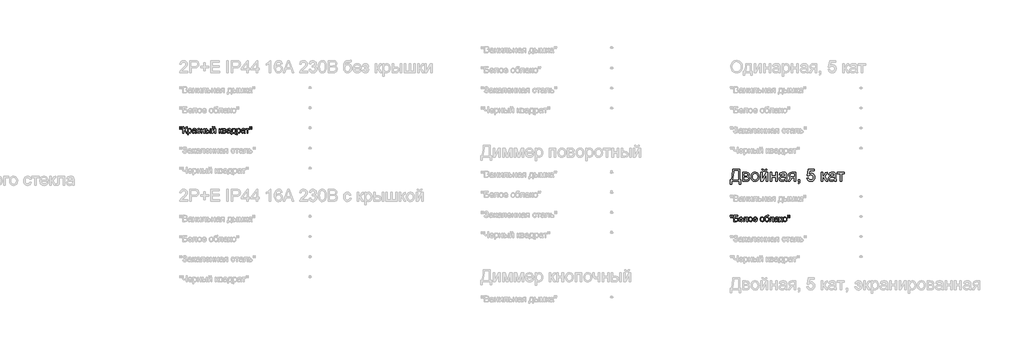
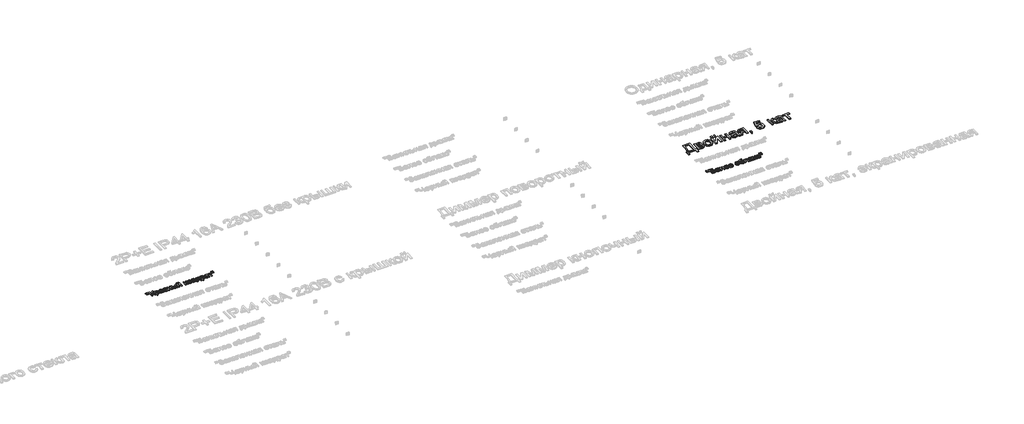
# One storey, part 161 of 168: 3 proxies.
"""IFC4 building model written with IfcOpenShell, lengths in millimetres."""

from ifc_helpers import new_model, si_unit, origin, origin_with_axes, place, context, project, spatial, polyline, outline, extrude, element, save

model = new_model("IFC4")

# Units and contexts
model_context = context("Model", 3, world=origin())
ifc_project = project(units=[si_unit("LENGTHUNIT", "METRE", prefix="MILLI")], contexts=[model_context])

# Site, building, storey
site = spatial("IfcSite", under=ifc_project)
building = spatial("IfcBuilding", under=site)
storey = spatial("IfcBuildingStorey", under=building, Name="Этаж 01", Elevation=0.0)

# Proxies
placement = place(None, origin())
element("IfcBuildingElementProxy", 1, Name="300 мм Arial 2", ObjectType="300 мм Arial 2", at=placement, inside=storey, context=model_context, shape_type="SweptSolid", body=[
    extrude(outline(polyline([(77327.3478389, -8447.0367511), (77506.2856413, -8447.0367511), (77506.2856413, -8710.7345653), (77534.5389786, -8710.7345653), (77534.5389786, -8819.0390246), (77496.8678623, -8819.0390246), (77496.8678623, -8748.4056816), (77303.8033912, -8748.4056816), (77303.8033912, -8819.0390246), (77266.1322749, -8819.0390246), (77266.1322749, -8710.7345653), (77289.6767226, -8710.7345653), (77306.157836, -8676.5629264), (77317.9300598, -8628.4945452), (77324.9933941, -8566.5294217), (77327.3478389, -8490.6675557), (77327.3478389, -8447.0367511)]), holes=[polyline([(77468.614525, -8484.7078674), (77365.0189552, -8484.7078674), (77365.0189552, -8499.8646056), (77357.3670097, -8603.0922935), (77346.0362442, -8662.744359), (77327.3478389, -8710.7345653), (77468.614525, -8710.7345653), (77468.614525, -8484.7078674)])]), origin_with_axes(), (0.0, 0.0, 1.0), 20.0),
    extrude(outline(polyline([(77576.9189844, -8527.0878733), (77659.9131625, -8527.0878733), (77686.5938042, -8528.3478691), (77705.4201653, -8532.1278566), (77719.2709224, -8539.2647673), (77731.0247522, -8550.5955328), (77739.0537767, -8565.3567978), (77741.7301183, -8582.7852073), (77740.1114375, -8596.8291025), (77735.2553951, -8608.9416172), (77727.1435971, -8619.1779337), (77715.7576494, -8627.5932344), (77729.700377, -8635.4199238), (77741.0679307, -8648.0106851), (77748.6279057, -8664.3722368), (77751.1478973, -8683.5112976), (77744.7651447, -8712.2244873), (77729.5900124, -8732.439603), (77705.5673181, -8744.4141619), (77672.6418796, -8748.4056816), (77576.9189844, -8748.4056816), (77576.9189844, -8527.0878733)]), holes=[polyline([(77614.5901007, -8611.847885), (77651.8197586, -8611.847885), (77682.5379052, -8609.9348986), (77697.4739142, -8602.2829531), (77702.41273, -8595.9553828), (77704.0590019, -8588.4505901), (77701.1711283, -8577.2117951), (77692.5075073, -8569.9829139), (77676.8541284, -8566.0649707), (77652.996981, -8564.7589896), (77614.5901007, -8564.7589896), (77614.5901007, -8611.847885)]), polyline([(77614.5901007, -8710.7345653), (77660.7960793, -8710.7345653), (77685.9776019, -8709.033111), (77701.7781336, -8703.9287484), (77710.2578136, -8694.648925), (77713.476781, -8680.4210889), (77711.8672973, -8670.9941127), (77707.0388461, -8662.2845065), (77699.6260239, -8655.4694925), (77690.2634271, -8651.7262932), (77657.1172594, -8649.5190013), (77614.5901007, -8649.5190013), (77614.5901007, -8710.7345653)])]), origin_with_axes(), (0.0, 0.0, 1.0), 20.0),
    extrude(outline(polyline([(77788.8190136, -8637.7467774), (77790.8561602, -8609.0841715), (77796.9675998, -8584.385494), (77807.1533326, -8563.6507451), (77821.4133584, -8546.8799246), (77835.7699533, -8536.160763), (77851.6164702, -8528.504219), (77868.9529092, -8523.9102925), (77887.7792703, -8522.3789837), (77908.5623038, -8524.2436856), (77927.354176, -8529.8377912), (77944.1548868, -8539.1613005), (77958.9644364, -8552.2142135), (77971.0516592, -8568.5550719), (77979.6853898, -8587.7424172), (77984.8656281, -8609.7762495), (77986.5923742, -8634.6565687), (77983.5389537, -8672.7139611), (77974.378692, -8701.6846682), (77959.3783037, -8723.3805088), (77938.8045031, -8739.6133019), (77914.3679415, -8749.7392538), (77887.7792703, -8753.1145711), (77866.6927342, -8751.256767), (77847.7261181, -8745.6833548), (77830.879422, -8736.3943344), (77816.1526459, -8723.3897059), (77804.1941818, -8706.8901984), (77795.6524217, -8687.1165412), (77790.5273657, -8664.0687342), (77788.8190136, -8637.7467774)]), holes=[polyline([(77826.4901299, -8637.673201), (77830.8495316, -8671.7666649), (77843.9277365, -8696.0560737), (77863.6094233, -8710.5966095), (77887.7792703, -8715.4434548), (77911.8387528, -8710.5690184), (77931.4836514, -8695.9457091), (77944.5618563, -8671.3344036), (77948.9212579, -8636.4959786), (77944.5342651, -8603.3957961), (77931.3732868, -8579.4374812), (77911.7007971, -8564.8969453), (77887.7792703, -8560.0501), (77863.6094233, -8564.8785512), (77843.9277365, -8579.3639048), (77830.8495316, -8603.5981312), (77826.4901299, -8637.673201)])]), origin_with_axes(), (0.0, 0.0, 1.0), 20.0),
    extrude(outline(polyline([(78028.9723801, -8527.0878733), (78066.6434964, -8527.0878733), (78066.6434964, -8695.8721327), (78159.2026064, -8527.0878733), (78207.9101825, -8527.0878733), (78207.9101825, -8748.4056816), (78170.2390662, -8748.4056816), (78170.2390662, -8580.6514918), (78078.2685674, -8748.4056816), (78028.9723801, -8748.4056816), (78028.9723801, -8527.0878733)])), origin_with_axes(), (0.0, 0.0, 1.0), 20.0),
    extrude(outline(polyline([(78151.4035081, -8447.0367511), (78179.6568453, -8447.0367511), (78173.5775953, -8471.160613), (78161.3731102, -8488.9385104), (78143.5952127, -8499.8921968), (78120.7957261, -8503.5434256), (78096.0556619, -8499.9197879), (78076.8706159, -8489.048875), (78063.7556227, -8471.2985687), (78057.2257173, -8447.0367511), (78085.4790545, -8447.0367511), (78089.4521801, -8459.4435714), (78096.074056, -8468.2635422), (78105.3814705, -8473.5334518), (78117.4112117, -8475.2900883), (78130.9860574, -8473.5886341), (78140.8085066, -8468.4842714), (78147.4303825, -8459.7194829), (78151.4035081, -8447.0367511)])), origin_with_axes(), (0.0, 0.0, 1.0), 20.0),
    extrude(outline(polyline([(78264.416857, -8527.0878733), (78302.0879733, -8527.0878733), (78302.0879733, -8611.847885), (78400.9746536, -8611.847885), (78400.9746536, -8527.0878733), (78438.6457699, -8527.0878733), (78438.6457699, -8748.4056816), (78400.9746536, -8748.4056816), (78400.9746536, -8649.5190013), (78302.0879733, -8649.5190013), (78302.0879733, -8748.4056816), (78264.416857, -8748.4056816), (78264.416857, -8527.0878733)])), origin_with_axes(), (0.0, 0.0, 1.0), 20.0),
    extrude(outline(polyline([(78636.4191305, -8720.1523443), (78618.4205039, -8735.584994), (78599.8884484, -8745.6833548), (78580.3998997, -8751.256767), (78559.5317935, -8753.1145711), (78528.0502918, -8748.6448049), (78504.8277408, -8735.2355061), (78490.5079342, -8714.8732377), (78485.7346653, -8689.5445623), (78487.5372871, -8673.9279716), (78492.9451524, -8659.7461207), (78501.2868766, -8647.6060149), (78511.8910752, -8638.1146594), (78538.2682142, -8625.7538244), (78570.862559, -8620.0884417), (78609.3798039, -8614.1287533), (78636.1984013, -8607.1389954), (78636.4191305, -8598.7512859), (78633.8255625, -8581.9390788), (78626.0448583, -8570.9394071), (78608.6440399, -8562.7724268), (78584.4006164, -8560.0501), (78561.9598147, -8561.8619189), (78546.2880417, -8567.2973753), (78535.6010697, -8577.3497509), (78528.1146711, -8593.0123268), (78490.4435548, -8588.3034373), (78496.9826573, -8567.7020455), (78506.7407272, -8551.5152378), (78520.6282725, -8539.1360086), (78539.5558012, -8529.9573528), (78562.7047757, -8524.273576), (78589.2566587, -8522.3789837), (78614.7232899, -8524.0528468), (78634.9108143, -8529.074436), (78650.1319319, -8536.625214), (78660.6993422, -8545.8866432), (78667.7074942, -8557.3369703), (78672.2508369, -8571.4544419), (78674.0902468, -8604.4166687), (78674.0902468, -8651.2848348), (78676.0032332, -8716.7310418), (78683.5080259, -8748.4056816), (78645.8369096, -8748.4056816), (78636.4191305, -8720.1523443)]), holes=[polyline([(78636.4191305, -8644.8101117), (78575.6450249, -8656.3616064), (78543.2346211, -8662.4684475), (78528.5561295, -8672.4012614), (78523.4057816, -8686.895812), (78526.2108818, -8698.0978187), (78534.6261825, -8707.2764745), (78548.4677425, -8713.4017097), (78567.551621, -8715.4434548), (78587.7851308, -8713.1901776), (78605.6641957, -8706.4303459), (78620.1587463, -8696.4699409), (78630.238713, -8684.6149436), (78634.7084792, -8672.4012614), (78636.1984013, -8655.4786896), (78636.4191305, -8644.8101117)])]), origin_with_axes(), (0.0, 0.0, 1.0), 20.0),
    extrude(outline(polyline([(78895.4080551, -8527.0878733), (78895.4080551, -8748.4056816), (78857.7369388, -8748.4056816), (78857.7369388, -8663.6456699), (78837.2091235, -8663.6456699), (78809.2500919, -8668.4281358), (78798.0848733, -8678.8575904), (78782.9833174, -8700.5810222), (78752.9641466, -8748.4056816), (78709.4069184, -8748.4056816), (78747.2251875, -8687.9258816), (78763.9270301, -8666.2208438), (78779.3044975, -8656.5823356), (78753.5527578, -8648.6912668), (78735.4529636, -8633.7000755), (78724.7475976, -8613.7608713), (78721.1791422, -8591.025764), (78726.0535786, -8565.2372362), (78740.676888, -8544.8197854), (78764.5340353, -8531.5208513), (78797.109986, -8527.0878733), (78895.4080551, -8527.0878733)]), holes=[polyline([(78857.7369388, -8564.7589896), (78808.0728695, -8564.7589896), (78782.4222974, -8566.9386904), (78767.8633674, -8573.4777929), (78761.1035357, -8582.9415572), (78758.8502585, -8593.8952436), (78762.1703935, -8608.2518385), (78772.1307985, -8618.2122435), (78790.5340954, -8624.033976), (78819.1829057, -8625.9745536), (78857.7369388, -8625.9745536), (78857.7369388, -8564.7589896)])]), origin_with_axes(), (0.0, 0.0, 1.0), 20.0),
    extrude(outline(polyline([(78961.3325087, -8748.4056816), (78961.3325087, -8710.7345653), (78999.003625, -8710.7345653), (78999.003625, -8748.4056816), (78997.3113678, -8769.9543694), (78992.2345963, -8786.9229265), (78983.4790048, -8799.936752), (78970.7502877, -8809.6212456), (78961.3325087, -8795.494577), (78969.499489, -8788.6703659), (78975.1648717, -8779.2341928), (78980.0944904, -8748.4056816), (78961.3325087, -8748.4056816)])), origin_with_axes(), (0.0, 0.0, 1.0), 20.0),
    extrude(outline(polyline([(79177.9414274, -8668.3545594), (79215.6125437, -8663.6456699), (79222.5287252, -8686.2612155), (79234.5952547, -8702.4572204), (79251.7569498, -8712.1968962), (79273.9586282, -8715.4434548), (79300.9611666, -8710.9277033), (79321.1946763, -8697.3804488), (79333.8314229, -8676.3651899), (79338.0436717, -8649.4454249), (79334.0981373, -8624.0983554), (79322.2615341, -8604.7109743), (79302.4418916, -8592.4053215), (79274.5472394, -8588.3034373), (79256.2727012, -8589.9405121), (79241.474648, -8594.8517368), (79220.3214333, -8611.847885), (79182.650317, -8607.1389954), (79215.6125437, -8451.7456407), (79361.5881194, -8451.7456407), (79361.5881194, -8489.416757), (79246.0731729, -8489.416757), (79229.9599415, -8572.4109351), (79256.8705095, -8556.0769745), (79285.0686644, -8550.632321), (79303.4144797, -8552.3199796), (79320.2657743, -8557.3829556), (79335.6225483, -8565.8212488), (79349.4848018, -8577.6348594), (79360.9604208, -8592.1018189), (79369.1572915, -8608.5001588), (79374.0754139, -8626.8298792), (79375.714788, -8647.0909801), (79369.810282, -8684.7620964), (79362.4296495, -8701.5559095), (79352.0967639, -8716.9885592), (79336.443385, -8732.7936894), (79318.178044, -8744.0830681), (79297.3007408, -8750.8566954), (79273.8114754, -8753.1145711), (79236.8117437, -8747.3112326), (79221.1330729, -8740.0570595), (79207.3351988, -8729.9012172), (79195.8549813, -8717.3495434), (79187.1292803, -8702.9078758), (79177.9414274, -8668.3545594)])), origin_with_axes(), (0.0, 0.0, 1.0), 20.0),
    extrude(outline(polyline([(79535.8170323, -8527.0878733), (79573.4881486, -8527.0878733), (79573.4881486, -8621.265664), (79588.8104337, -8619.5734069), (79598.7248535, -8614.4966353), (79607.4988391, -8601.2528835), (79619.3998216, -8575.0596854), (79636.5799108, -8541.0306009), (79651.736649, -8529.9573528), (79679.2910105, -8527.0878733), (79686.5014976, -8527.0878733), (79686.5014976, -8564.9797188), (79676.3479545, -8564.7589896), (79657.9538547, -8568.7321151), (79645.0044085, -8593.5273616), (79629.8108821, -8620.345959), (79608.5105146, -8633.4793463), (79620.4482853, -8638.7814455), (79632.2756915, -8648.1394438), (79655.59941, -8679.0231373), (79695.9192766, -8748.4056816), (79653.0978124, -8748.4056816), (79613.5872861, -8680.4946653), (79593.7216584, -8651.7630814), (79584.432638, -8646.5483542), (79573.4881486, -8644.8101117), (79573.4881486, -8748.4056816), (79535.8170323, -8748.4056816), (79535.8170323, -8527.0878733)])), origin_with_axes(), (0.0, 0.0, 1.0), 20.0),
    extrude(outline(polyline([(79860.7304105, -8720.1523443), (79842.7317839, -8735.584994), (79824.1997284, -8745.6833548), (79804.7111797, -8751.256767), (79783.8430735, -8753.1145711), (79752.3615717, -8748.6448049), (79729.1390208, -8735.2355061), (79714.8192141, -8714.8732377), (79710.0459452, -8689.5445623), (79711.848567, -8673.9279716), (79717.2564324, -8659.7461207), (79725.5981566, -8647.6060149), (79736.2023551, -8638.1146594), (79762.5794942, -8625.7538244), (79795.1738389, -8620.0884417), (79833.6910838, -8614.1287533), (79860.5096813, -8607.1389954), (79860.7304105, -8598.7512859), (79858.1368424, -8581.9390788), (79850.3561382, -8570.9394071), (79832.9553198, -8562.7724268), (79808.7118964, -8560.0501), (79786.2710946, -8561.8619189), (79770.5993217, -8567.2973753), (79759.9123497, -8577.3497509), (79752.4259511, -8593.0123268), (79714.7548348, -8588.3034373), (79721.2939373, -8567.7020455), (79731.0520072, -8551.5152378), (79744.9395525, -8539.1360086), (79763.8670811, -8529.9573528), (79787.0160557, -8524.273576), (79813.5679387, -8522.3789837), (79839.0345698, -8524.0528468), (79859.2220943, -8529.074436), (79874.4432118, -8536.625214), (79885.0106222, -8545.8866432), (79892.0187742, -8557.3369703), (79896.5621168, -8571.4544419), (79898.4015268, -8604.4166687), (79898.4015268, -8651.2848348), (79900.3145132, -8716.7310418), (79907.8193059, -8748.4056816), (79870.1481895, -8748.4056816), (79860.7304105, -8720.1523443)]), holes=[polyline([(79860.7304105, -8644.8101117), (79799.9563049, -8656.3616064), (79767.5459011, -8662.4684475), (79752.8674095, -8672.4012614), (79747.7170616, -8686.895812), (79750.5221618, -8698.0978187), (79758.9374624, -8707.2764745), (79772.7790225, -8713.4017097), (79791.862901, -8715.4434548), (79812.0964107, -8713.1901776), (79829.9754757, -8706.4303459), (79844.4700263, -8696.4699409), (79854.549993, -8684.6149436), (79859.0197592, -8672.4012614), (79860.5096813, -8655.4786896), (79860.7304105, -8644.8101117)])]), origin_with_axes(), (0.0, 0.0, 1.0), 20.0),
    extrude(outline(polyline([(79931.3637535, -8527.0878733), (80110.301556, -8527.0878733), (80110.301556, -8564.7589896), (80039.6682129, -8564.7589896), (80039.6682129, -8748.4056816), (80001.9970966, -8748.4056816), (80001.9970966, -8564.7589896), (79931.3637535, -8564.7589896), (79931.3637535, -8527.0878733)])), origin_with_axes(), (0.0, 0.0, 1.0), 20.0),
])
element("IfcBuildingElementProxy", 2, Name="150", ObjectType="150", at=placement, inside=storey, context=model_context, shape_type="SweptSolid", body=[
    extrude(outline(polyline([(63580.1485789, -7451.873446), (63575.550054, -7422.7739802), (63575.550054, -7397.7212163), (63594.3856121, -7397.7212163), (63594.3856121, -7422.7739802), (63590.2653338, -7451.873446), (63580.1485789, -7451.873446)])), origin_with_axes(), (0.0, 0.0, 1.0), 20.0),
    extrude(outline(polyline([(63617.7093306, -7451.873446), (63613.2211703, -7422.7739802), (63613.2211703, -7397.7212163), (63632.0567284, -7397.7212163), (63632.0567284, -7422.7739802), (63627.6421445, -7451.873446), (63617.7093306, -7451.873446)])), origin_with_axes(), (0.0, 0.0, 1.0), 20.0),
    extrude(outline(polyline([(63657.9556209, -7397.7212163), (63676.791179, -7397.7212163), (63676.791179, -7463.6456699), (63689.5428887, -7462.3994696), (63697.8524233, -7458.6608688), (63712.549309, -7433.4425581), (63722.9419753, -7412.3813139), (63734.7141992, -7401.9518593), (63751.5448005, -7397.7212163), (63763.9056355, -7397.9419455), (63763.9056355, -7416.7775037), (63759.748569, -7416.6671391), (63755.5915024, -7416.5567745), (63740.8762226, -7421.081723), (63729.6926099, -7440.4691042), (63716.3568876, -7464.0871283), (63703.3522591, -7471.8862266), (63717.892795, -7480.4026948), (63732.2309957, -7498.153001), (63763.9056355, -7548.4056816), (63742.053445, -7548.4056816), (63715.2716357, -7505.9520993), (63696.4176835, -7483.7872091), (63687.7126758, -7479.2760562), (63676.791179, -7477.7723385), (63676.791179, -7548.4056816), (63657.9556209, -7548.4056816), (63657.9556209, -7397.7212163)])), origin_with_axes(), (0.0, 0.0, 1.0), 20.0),
    extrude(outline(polyline([(63778.0323041, -7590.7856874), (63778.0323041, -7437.7467774), (63796.8678623, -7437.7467774), (63796.8678623, -7456.2144536), (63809.8908849, -7440.5978629), (63827.4756443, -7435.3923327), (63840.2135583, -7437.2133485), (63851.3511858, -7442.6763962), (63860.4194769, -7451.4503817), (63866.9493823, -7463.2042115), (63872.2100949, -7492.2301009), (63870.7247713, -7508.3387338), (63866.2688007, -7522.7459124), (63858.9847372, -7534.7204713), (63849.0151351, -7543.5312451), (63837.4038596, -7548.952906), (63825.1947759, -7550.7601263), (63808.805633, -7545.9224781), (63796.8678623, -7533.6904018), (63796.8678623, -7590.7856874), (63778.0323041, -7590.7856874)]), holes=[polyline([(63796.8678623, -7493.9591463), (63798.9050088, -7510.8449299), (63805.0164485, -7522.6539419), (63814.0341559, -7529.6069116), (63824.7901057, -7531.9245682), (63835.7207995, -7529.5241382), (63844.9684331, -7522.3228481), (63851.2730108, -7510.0815747), (63853.3745367, -7492.5611947), (63851.3235946, -7475.7673816), (63845.1707682, -7463.7928227), (63836.1668564, -7456.6191238), (63825.5626579, -7454.2278908), (63814.9170727, -7456.7708751), (63805.5682715, -7464.399828), (63799.0429646, -7476.8756261), (63796.8678623, -7493.9591463)])]), origin_with_axes(), (0.0, 0.0, 1.0), 20.0),
    extrude(outline(polyline([(63964.0334409, -7534.279013), (63945.7680998, -7547.0445182), (63925.5897724, -7550.7601263), (63909.8490215, -7548.5252432), (63898.237746, -7541.8205939), (63891.0778427, -7531.6394596), (63888.6912083, -7518.975122), (63892.2964518, -7504.0759012), (63901.7694132, -7493.2601705), (63914.9579827, -7487.079753), (63931.2551551, -7484.2470616), (63963.9230763, -7477.7723385), (63964.0334409, -7473.5784838), (63962.7366568, -7465.1723802), (63958.8463047, -7459.6725443), (63950.1458956, -7455.5890542), (63938.0241838, -7454.2278908), (63918.9678965, -7457.8515285), (63909.8812112, -7470.7090042), (63891.045653, -7468.3545594), (63899.1942392, -7449.9604597), (63915.6017762, -7439.1815172), (63940.452205, -7435.3923327), (63963.2792828, -7438.7400588), (63976.1735467, -7447.1461624), (63981.949294, -7459.9300617), (63982.868999, -7476.4111751), (63982.868999, -7499.8452582), (63983.8254922, -7532.5683617), (63987.5778886, -7548.4056816), (63968.7423304, -7548.4056816), (63964.0334409, -7534.279013)]), holes=[polyline([(63964.0334409, -7496.6078966), (63933.6463881, -7502.383644), (63917.4411862, -7505.4370645), (63910.1019404, -7510.4034715), (63907.5267664, -7517.6507468), (63913.1369668, -7527.841078), (63929.5996861, -7531.9245682), (63948.6559735, -7527.4180137), (63960.9432321, -7516.5103126), (63963.9230763, -7501.9421856), (63964.0334409, -7496.6078966)])]), origin_with_axes(), (0.0, 0.0, 1.0), 20.0),
    extrude(outline(polyline([(64079.4012346, -7508.3801205), (64098.2367927, -7510.7345653), (64092.9852772, -7527.4869916), (64083.1168427, -7540.1467308), (64069.5603912, -7548.1067774), (64053.2448247, -7550.7601263), (64033.2090515, -7547.0583138), (64017.5418771, -7535.952876), (64007.4297207, -7517.9312568), (64004.0590019, -7493.4808997), (64005.4983403, -7476.7192763), (64009.8163552, -7462.192536), (64017.0820246, -7450.4616989), (64027.3643263, -7442.087785), (64039.6653806, -7437.0661957), (64052.9873073, -7435.3923327), (64068.9028021, -7437.6915951), (64081.6269206, -7444.5893825), (64090.7549926, -7455.7178129), (64095.8823479, -7470.7090042), (64077.0467898, -7473.063449), (64068.3095924, -7458.9551744), (64053.1344601, -7454.2278908), (64040.9621646, -7456.5547444), (64031.3006637, -7463.5353053), (64024.996086, -7475.5466524), (64022.8945601, -7492.9658649), (64024.9501007, -7510.6196021), (64031.1167227, -7522.672336), (64040.6034796, -7529.6115101), (64052.6194253, -7531.9245682), (64062.3728967, -7530.4806314), (64070.3697316, -7526.1488209), (64076.1868656, -7518.8187721), (64079.4012346, -7508.3801205)])), origin_with_axes(), (0.0, 0.0, 1.0), 20.0),
    extrude(outline(polyline([(64114.7179061, -7437.7467774), (64133.5534643, -7437.7467774), (64133.5534643, -7480.1267833), (64182.9968044, -7480.1267833), (64182.9968044, -7437.7467774), (64201.8323626, -7437.7467774), (64201.8323626, -7548.4056816), (64182.9968044, -7548.4056816), (64182.9968044, -7498.9623414), (64133.5534643, -7498.9623414), (64133.5534643, -7548.4056816), (64114.7179061, -7548.4056816), (64114.7179061, -7437.7467774)])), origin_with_axes(), (0.0, 0.0, 1.0), 20.0),
    extrude(outline(polyline([(64333.6812696, -7437.7467774), (64352.5168278, -7437.7467774), (64352.5168278, -7548.4056816), (64333.6812696, -7548.4056816), (64333.6812696, -7437.7467774)])), origin_with_axes(), (0.0, 0.0, 1.0), 20.0),
    extrude(outline(polyline([(64230.0856998, -7437.7467774), (64248.9212579, -7437.7467774), (64248.9212579, -7477.7723385), (64272.2081882, -7477.7723385), (64292.3359319, -7480.1313818), (64307.2489483, -7487.2085117), (64316.4781878, -7498.433511), (64319.554601, -7513.2361628), (64316.9748285, -7526.7144394), (64309.235511, -7538.0865916), (64295.8308108, -7545.8259091), (64276.2548902, -7548.4056816), (64230.0856998, -7548.4056816), (64230.0856998, -7437.7467774)]), holes=[polyline([(64248.9212579, -7529.5701234), (64268.2718509, -7529.5701234), (64293.2510384, -7525.615392), (64298.8520417, -7520.552416), (64300.7190429, -7513.272951), (64295.1824188, -7501.6846682), (64286.3026672, -7497.8770895), (64270.7366603, -7496.6078966), (64248.9212579, -7496.6078966), (64248.9212579, -7529.5701234)])]), origin_with_axes(), (0.0, 0.0, 1.0), 20.0),
    extrude(outline(polyline([(64441.985729, -7397.7212163), (64456.1123976, -7397.7212163), (64453.0727726, -7409.7831473), (64446.97053, -7418.672096), (64438.0815813, -7424.1489392), (64426.681838, -7425.9745536), (64414.3118059, -7424.1627347), (64404.7192829, -7418.7272783), (64398.1617863, -7409.8521251), (64394.8968336, -7397.7212163), (64409.0235022, -7397.7212163), (64414.321003, -7408.3346119), (64424.9895808, -7411.847885), (64436.6882283, -7408.4449765), (64441.985729, -7397.7212163)])), origin_with_axes(), (0.0, 0.0, 1.0), 20.0),
    extrude(outline(polyline([(64380.770165, -7437.7467774), (64399.6057232, -7437.7467774), (64399.6057232, -7522.1389071), (64445.8852782, -7437.7467774), (64470.2390662, -7437.7467774), (64470.2390662, -7548.4056816), (64451.4035081, -7548.4056816), (64451.4035081, -7464.5285867), (64405.4182587, -7548.4056816), (64380.770165, -7548.4056816), (64380.770165, -7437.7467774)])), origin_with_axes(), (0.0, 0.0, 1.0), 20.0),
    extrude(outline(polyline([(64557.3535227, -7437.7467774), (64576.1890808, -7437.7467774), (64576.1890808, -7484.8356728), (64588.8074333, -7481.4511584), (64599.1449173, -7461.7326835), (64607.7349619, -7444.7181412), (64615.313331, -7439.1815172), (64629.0905118, -7437.7467774), (64632.6957553, -7437.7467774), (64632.6957553, -7456.6927002), (64627.6189838, -7456.5823356), (64618.4219339, -7458.5688983), (64611.9472108, -7470.9665216), (64604.3504476, -7484.3758203), (64593.7002638, -7490.9425139), (64605.5828523, -7498.2725627), (64617.2447115, -7513.7144094), (64637.4046448, -7548.4056816), (64615.9939127, -7548.4056816), (64596.2386496, -7514.4501734), (64586.3058357, -7500.0843815), (64576.1890808, -7496.6078966), (64576.1890808, -7548.4056816), (64557.3535227, -7548.4056816), (64557.3535227, -7437.7467774)])), origin_with_axes(), (0.0, 0.0, 1.0), 20.0),
    extrude(outline(polyline([(64649.1768687, -7437.7467774), (64690.6739577, -7437.7467774), (64713.4274591, -7440.2667691), (64726.2297526, -7449.5006072), (64731.5824356, -7465.5954445), (64728.3450741, -7478.6736494), (64718.5962012, -7487.999458), (64731.2513418, -7498.2081833), (64736.2913251, -7515.9584896), (64733.0999488, -7530.3150845), (64725.5123827, -7540.4226423), (64713.5010355, -7546.4099217), (64697.0383163, -7548.4056816), (64649.1768687, -7548.4056816), (64649.1768687, -7437.7467774)]), holes=[polyline([(64668.0124268, -7480.1267833), (64686.6272558, -7480.1267833), (64701.9863291, -7479.1702901), (64709.4543336, -7475.3443173), (64712.7468775, -7468.4281358), (64711.3029406, -7462.8087383), (64706.9711301, -7459.1942977), (64687.215867, -7456.5823356), (64668.0124268, -7456.5823356), (64668.0124268, -7480.1267833)]), polyline([(64668.0124268, -7529.5701234), (64691.1154161, -7529.5701234), (64711.6064433, -7526.167215), (64715.8462833, -7521.5273033), (64717.455767, -7514.4133852), (64714.2367995, -7505.345094), (64705.84909, -7500.0659874), (64689.2760062, -7498.9623414), (64668.0124268, -7498.9623414), (64668.0124268, -7529.5701234)])]), origin_with_axes(), (0.0, 0.0, 1.0), 20.0),
    extrude(outline(polyline([(64830.4691159, -7534.279013), (64812.2037749, -7547.0445182), (64792.0254474, -7550.7601263), (64776.2846965, -7548.5252432), (64764.6734211, -7541.8205939), (64757.5135177, -7531.6394596), (64755.1268833, -7518.975122), (64758.7321269, -7504.0759012), (64768.2050882, -7493.2601705), (64781.3936578, -7487.079753), (64797.6908301, -7484.2470616), (64830.3587513, -7477.7723385), (64830.4691159, -7473.5784838), (64829.1723319, -7465.1723802), (64825.2819798, -7459.6725443), (64816.5815706, -7455.5890542), (64804.4598589, -7454.2278908), (64785.4035715, -7457.8515285), (64776.3168862, -7470.7090042), (64757.4813281, -7468.3545594), (64765.6299143, -7449.9604597), (64782.0374512, -7439.1815172), (64806.88788, -7435.3923327), (64829.7149578, -7438.7400588), (64842.6092218, -7447.1461624), (64848.3849691, -7459.9300617), (64849.3046741, -7476.4111751), (64849.3046741, -7499.8452582), (64850.2611673, -7532.5683617), (64854.0135636, -7548.4056816), (64835.1780055, -7548.4056816), (64830.4691159, -7534.279013)]), holes=[polyline([(64830.4691159, -7496.6078966), (64800.0820631, -7502.383644), (64783.8768612, -7505.4370645), (64776.5376154, -7510.4034715), (64773.9624415, -7517.6507468), (64779.5726419, -7527.841078), (64796.0353612, -7531.9245682), (64815.0916485, -7527.4180137), (64827.3789072, -7516.5103126), (64830.3587513, -7501.9421856), (64830.4691159, -7496.6078966)])]), origin_with_axes(), (0.0, 0.0, 1.0), 20.0),
    extrude(outline(polyline([(64891.6846799, -7437.7467774), (64962.318023, -7437.7467774), (64962.318023, -7529.5701234), (64976.4446916, -7529.5701234), (64976.4446916, -7579.0134636), (64957.6091334, -7579.0134636), (64957.6091334, -7548.4056816), (64879.9124561, -7548.4056816), (64879.9124561, -7579.0134636), (64861.0768979, -7579.0134636), (64861.0768979, -7529.5701234), (64872.8491218, -7529.5701234), (64881.4069767, -7514.105284), (64887.3988547, -7493.6464466), (64891.6846799, -7437.7467774)]), holes=[polyline([(64908.1657933, -7456.5823356), (64903.7512094, -7499.4957703), (64894.0391247, -7529.5701234), (64943.4824648, -7529.5701234), (64943.4824648, -7456.5823356), (64908.1657933, -7456.5823356)])]), origin_with_axes(), (0.0, 0.0, 1.0), 20.0),
    extrude(outline(polyline([(64997.6346945, -7590.7856874), (64997.6346945, -7437.7467774), (65016.4702527, -7437.7467774), (65016.4702527, -7456.2144536), (65029.4932753, -7440.5978629), (65047.0780347, -7435.3923327), (65059.8159488, -7437.2133485), (65070.9535762, -7442.6763962), (65080.0218673, -7451.4503817), (65086.5517728, -7463.2042115), (65091.8124853, -7492.2301009), (65090.3271617, -7508.3387338), (65085.8711911, -7522.7459124), (65078.5871276, -7534.7204713), (65068.6175255, -7543.5312451), (65057.00625, -7548.952906), (65044.7971663, -7550.7601263), (65028.4080234, -7545.9224781), (65016.4702527, -7533.6904018), (65016.4702527, -7590.7856874), (64997.6346945, -7590.7856874)]), holes=[polyline([(65016.4702527, -7493.9591463), (65018.5073992, -7510.8449299), (65024.6188389, -7522.6539419), (65033.6365463, -7529.6069116), (65044.3924961, -7531.9245682), (65055.3231899, -7529.5241382), (65064.5708235, -7522.3228481), (65070.8754012, -7510.0815747), (65072.9769271, -7492.5611947), (65070.925985, -7475.7673816), (65064.7731586, -7463.7928227), (65055.7692468, -7456.6191238), (65045.1650483, -7454.2278908), (65034.5194631, -7456.7708751), (65025.1706619, -7464.399828), (65018.645355, -7476.8756261), (65016.4702527, -7493.9591463)])]), origin_with_axes(), (0.0, 0.0, 1.0), 20.0),
    extrude(outline(polyline([(65183.6358313, -7534.279013), (65165.3704902, -7547.0445182), (65145.1921628, -7550.7601263), (65129.4514119, -7548.5252432), (65117.8401364, -7541.8205939), (65110.6802331, -7531.6394596), (65108.2935987, -7518.975122), (65111.8988422, -7504.0759012), (65121.3718036, -7493.2601705), (65134.5603731, -7487.079753), (65150.8575455, -7484.2470616), (65183.5254667, -7477.7723385), (65183.6358313, -7473.5784838), (65182.3390473, -7465.1723802), (65178.4486952, -7459.6725443), (65169.748286, -7455.5890542), (65157.6265742, -7454.2278908), (65138.5702869, -7457.8515285), (65129.4836016, -7470.7090042), (65110.6480434, -7468.3545594), (65118.7966296, -7449.9604597), (65135.2041666, -7439.1815172), (65160.0545954, -7435.3923327), (65182.8816732, -7438.7400588), (65195.7759371, -7447.1461624), (65201.5516844, -7459.9300617), (65202.4713894, -7476.4111751), (65202.4713894, -7499.8452582), (65203.4278826, -7532.5683617), (65207.180279, -7548.4056816), (65188.3447208, -7548.4056816), (65183.6358313, -7534.279013)]), holes=[polyline([(65183.6358313, -7496.6078966), (65153.2487785, -7502.383644), (65137.0435766, -7505.4370645), (65129.7043308, -7510.4034715), (65127.1291568, -7517.6507468), (65132.7393573, -7527.841078), (65149.2020765, -7531.9245682), (65168.2583639, -7527.4180137), (65180.5456225, -7516.5103126), (65183.5254667, -7501.9421856), (65183.6358313, -7496.6078966)])]), origin_with_axes(), (0.0, 0.0, 1.0), 20.0),
    extrude(outline(polyline([(65218.9525028, -7437.7467774), (65308.421404, -7437.7467774), (65308.421404, -7456.5823356), (65273.1047325, -7456.5823356), (65273.1047325, -7548.4056816), (65254.2691744, -7548.4056816), (65254.2691744, -7456.5823356), (65218.9525028, -7456.5823356), (65218.9525028, -7437.7467774)])), origin_with_axes(), (0.0, 0.0, 1.0), 20.0),
    extrude(outline(polyline([(65324.7921528, -7451.873446), (65320.1936279, -7422.7739802), (65320.1936279, -7397.7212163), (65339.029186, -7397.7212163), (65339.029186, -7422.7739802), (65334.9089077, -7451.873446), (65324.7921528, -7451.873446)])), origin_with_axes(), (0.0, 0.0, 1.0), 20.0),
    extrude(outline(polyline([(65362.3529045, -7451.873446), (65357.8647442, -7422.7739802), (65357.8647442, -7397.7212163), (65376.7003024, -7397.7212163), (65376.7003024, -7422.7739802), (65372.2857184, -7451.873446), (65362.3529045, -7451.873446)])), origin_with_axes(), (0.0, 0.0, 1.0), 20.0),
])
element("IfcBuildingElementProxy", 3, Name="150", ObjectType="150", at=placement, inside=storey, context=model_context, shape_type="SweptSolid", body=[
    extrude(outline(polyline([(77280.1485789, -9651.873446), (77275.550054, -9622.7739802), (77275.550054, -9597.7212163), (77294.3856121, -9597.7212163), (77294.3856121, -9622.7739802), (77290.2653338, -9651.873446), (77280.1485789, -9651.873446)])), origin_with_axes(), (0.0, 0.0, 1.0), 20.0),
    extrude(outline(polyline([(77317.7093306, -9651.873446), (77313.2211703, -9622.7739802), (77313.2211703, -9597.7212163), (77332.0567284, -9597.7212163), (77332.0567284, -9622.7739802), (77327.6421445, -9651.873446), (77317.7093306, -9651.873446)])), origin_with_axes(), (0.0, 0.0, 1.0), 20.0),
    extrude(outline(polyline([(77357.9556209, -9597.7212163), (77452.1334117, -9597.7212163), (77452.1334117, -9616.5567745), (77376.791179, -9616.5567745), (77376.791179, -9661.2912251), (77412.0710624, -9661.2912251), (77443.157091, -9665.1171979), (77453.5589544, -9670.6446248), (77461.6615553, -9679.5749603), (77466.8762826, -9691.0712726), (77468.614525, -9704.2966303), (77463.6665122, -9725.7625448), (77448.8960501, -9742.0781113), (77435.6247071, -9746.823789), (77415.4555767, -9748.4056816), (77357.9556209, -9748.4056816), (77357.9556209, -9597.7212163)]), holes=[polyline([(77376.791179, -9729.5701234), (77417.1478339, -9729.5701234), (77431.4124583, -9728.015822), (77441.6119866, -9723.3529177), (77447.7372218, -9715.5814105), (77449.7789669, -9704.7013005), (77445.1068655, -9689.9492325), (77432.102237, -9682.0765578), (77403.7201411, -9680.1267833), (77376.791179, -9680.1267833), (77376.791179, -9729.5701234)])]), origin_with_axes(), (0.0, 0.0, 1.0), 20.0),
    extrude(outline(polyline([(77569.6349209, -9715.4434548), (77588.1025971, -9717.7978996), (77581.4485315, -9731.713036), (77570.8305374, -9742.1148995), (77556.4877381, -9748.5988196), (77538.6592569, -9750.7601263), (77516.5587461, -9747.0307226), (77499.5534008, -9735.8425114), (77488.710079, -9717.9220597), (77485.0956384, -9693.9959345), (77488.7468672, -9669.2650674), (77499.7005536, -9650.7698), (77516.4759726, -9639.2366995), (77537.5923991, -9635.3923327), (77558.0512366, -9639.2275025), (77574.3989927, -9650.7330118), (77585.1181544, -9669.191491), (77588.6912083, -9693.8855699), (77588.5808437, -9698.9623414), (77503.9311966, -9698.9623414), (77507.1915508, -9713.0614189), (77514.7653213, -9723.4264941), (77525.6960151, -9729.8000497), (77539.0271389, -9731.9245682), (77557.4948151, -9727.9882308), (77569.6349209, -9715.4434548)]), holes=[polyline([(77503.9311966, -9680.1267833), (77569.8556501, -9680.1267833), (77567.3080673, -9670.1755753), (77562.3140692, -9663.0570587), (77551.3327917, -9656.4351828), (77537.5188227, -9654.2278908), (77524.8222954, -9655.9891259), (77514.3238629, -9661.272831), (77507.0260039, -9669.5087892), (77503.9311966, -9680.1267833)])]), origin_with_axes(), (0.0, 0.0, 1.0), 20.0),
    extrude(outline(polyline([(77616.9445455, -9637.7467774), (77701.7045572, -9637.7467774), (77701.7045572, -9748.295317), (77682.868999, -9748.295317), (77682.868999, -9656.5823356), (77635.7801036, -9656.5823356), (77635.7801036, -9709.3734019), (77634.5109108, -9733.72719), (77627.539547, -9744.0094917), (77611.0584336, -9748.4056816), (77595.7545426, -9747.4491884), (77595.7545426, -9729.5701234), (77604.1790403, -9729.5701234), (77612.6955084, -9728.4112951), (77616.0984169, -9724.7324752), (77616.9445455, -9708.3065441), (77616.9445455, -9637.7467774)])), origin_with_axes(), (0.0, 0.0, 1.0), 20.0),
    extrude(outline(polyline([(77725.2490049, -9693.0762295), (77729.323298, -9666.3955878), (77741.5461773, -9647.6428031), (77756.6477332, -9638.4549503), (77774.7291332, -9635.3923327), (77794.516586, -9639.1217364), (77810.3217163, -9650.3099476), (77820.6821929, -9668.0740494), (77824.1356852, -9691.5311251), (77822.6089749, -9710.5598213), (77818.0288441, -9725.0451749), (77810.5286499, -9735.8930952), (77800.2417496, -9744.0094917), (77788.0234688, -9749.0724677), (77774.7291332, -9750.7601263), (77754.7025571, -9747.0445182), (77738.915821, -9735.8976937), (77728.6657089, -9717.7611114), (77725.2490049, -9693.0762295)]), holes=[polyline([(77744.084563, -9693.0394413), (77746.2642638, -9710.0861732), (77752.8033663, -9722.2308776), (77762.6442097, -9729.5011455), (77774.7291332, -9731.9245682), (77786.7588745, -9729.48735), (77796.5813237, -9722.1756953), (77803.1204262, -9709.8700426), (77805.300127, -9692.4508301), (77803.1066306, -9675.9007388), (77796.5261414, -9663.9215814), (77786.6898966, -9656.6513134), (77774.7291332, -9654.2278908), (77762.6442097, -9656.6421164), (77752.8033663, -9663.8847932), (77746.2642638, -9676.0019064), (77744.084563, -9693.0394413)])]), origin_with_axes(), (0.0, 0.0, 1.0), 20.0),
    extrude(outline(polyline([(77922.8016363, -9715.4434548), (77941.2693124, -9717.7978996), (77934.6152469, -9731.713036), (77923.9972528, -9742.1148995), (77909.6544535, -9748.5988196), (77891.8259723, -9750.7601263), (77869.7254614, -9747.0307226), (77852.7201162, -9735.8425114), (77841.8767944, -9717.9220597), (77838.2623538, -9693.9959345), (77841.9135826, -9669.2650674), (77852.867269, -9650.7698), (77869.642688, -9639.2366995), (77890.7591145, -9635.3923327), (77911.217952, -9639.2275025), (77927.5657081, -9650.7330118), (77938.2848698, -9669.191491), (77941.8579236, -9693.8855699), (77941.747559, -9698.9623414), (77857.0979119, -9698.9623414), (77860.3582661, -9713.0614189), (77867.9320367, -9723.4264941), (77878.8627305, -9729.8000497), (77892.1938543, -9731.9245682), (77910.6615304, -9727.9882308), (77922.8016363, -9715.4434548)]), holes=[polyline([(77857.0979119, -9680.1267833), (77923.0223655, -9680.1267833), (77920.4747827, -9670.1755753), (77915.4807846, -9663.0570587), (77904.499507, -9656.4351828), (77890.6855381, -9654.2278908), (77877.9890107, -9655.9891259), (77867.4905783, -9661.272831), (77860.1927192, -9669.5087892), (77857.0979119, -9680.1267833)])]), origin_with_axes(), (0.0, 0.0, 1.0), 20.0),
    extrude(outline(polyline([(78014.8457115, -9693.0762295), (78018.9200046, -9666.3955878), (78031.1428839, -9647.6428031), (78046.2444398, -9638.4549503), (78064.3258398, -9635.3923327), (78084.1132926, -9639.1217364), (78099.9184229, -9650.3099476), (78110.2788995, -9668.0740494), (78113.7323918, -9691.5311251), (78112.2056815, -9710.5598213), (78107.6255507, -9725.0451749), (78100.1253565, -9735.8930952), (78089.8384562, -9744.0094917), (78077.6201754, -9749.0724677), (78064.3258398, -9750.7601263), (78044.2992637, -9747.0445182), (78028.5125276, -9735.8976937), (78018.2624155, -9717.7611114), (78014.8457115, -9693.0762295)]), holes=[polyline([(78033.6812696, -9693.0394413), (78035.8609704, -9710.0861732), (78042.4000729, -9722.2308776), (78052.2409163, -9729.5011455), (78064.3258398, -9731.9245682), (78076.3555811, -9729.48735), (78086.1780303, -9722.1756953), (78092.7171328, -9709.8700426), (78094.8968336, -9692.4508301), (78092.7033372, -9675.9007388), (78086.122848, -9663.9215814), (78076.2866032, -9656.6513134), (78064.3258398, -9654.2278908), (78052.2409163, -9656.6421164), (78042.4000729, -9663.8847932), (78035.8609704, -9676.0019064), (78033.6812696, -9693.0394413)])]), origin_with_axes(), (0.0, 0.0, 1.0), 20.0),
    extrude(outline(polyline([(78212.6190721, -9595.3667716), (78229.1001855, -9595.3667716), (78224.2441431, -9610.0636573), (78214.6424231, -9615.3795521), (78191.576222, -9616.5567745), (78160.5085875, -9620.897782), (78153.3808738, -9626.5447707), (78148.5892108, -9634.8037215), (78144.560903, -9659.4150269), (78160.8764695, -9641.3888092), (78170.7954878, -9636.8914518), (78181.9009255, -9635.3923327), (78201.4998388, -9639.2045098), (78217.401538, -9650.6410414), (78227.9413572, -9668.5798871), (78231.4546302, -9691.8990071), (78229.7117893, -9709.8792396), (78224.4832664, -9724.3094109), (78207.9469707, -9743.8623389), (78196.6529935, -9749.0356795), (78181.9009255, -9750.7601263), (78164.9001788, -9748.5390388), (78152.1576662, -9741.8757762), (78142.7812738, -9731.7498242), (78135.8788879, -9719.1406689), (78131.6298508, -9700.1533594), (78130.2135052, -9670.8929452), (78133.786559, -9634.7531377), (78144.5057207, -9612.7124076), (78162.6377045, -9601.4690142), (78188.449225, -9597.7212163), (78209.4184987, -9597.2981521), (78212.6190721, -9595.3667716)]), holes=[polyline([(78212.6190721, -9691.3103959), (78210.577327, -9676.48935), (78204.4520918, -9664.6205572), (78194.6112484, -9656.8260574), (78181.4226789, -9654.2278908), (78167.6730893, -9656.9732102), (78157.473561, -9665.2091684), (78151.1551877, -9678.0344544), (78149.0490633, -9694.5477575), (78151.3759169, -9710.5552228), (78158.3564778, -9722.304454), (78168.7491442, -9729.5195396), (78181.3123143, -9731.9245682), (78193.9398638, -9729.1424606), (78203.937057, -9720.7961378), (78210.4485683, -9707.8604872), (78212.6190721, -9691.3103959)])]), origin_with_axes(), (0.0, 0.0, 1.0), 20.0),
    extrude(outline(polyline([(78264.416857, -9637.7467774), (78349.1768687, -9637.7467774), (78349.1768687, -9748.295317), (78330.3413105, -9748.295317), (78330.3413105, -9656.5823356), (78283.2524152, -9656.5823356), (78283.2524152, -9709.3734019), (78281.9832223, -9733.72719), (78275.0118585, -9744.0094917), (78258.5307451, -9748.4056816), (78243.2268541, -9747.4491884), (78243.2268541, -9729.5701234), (78251.6513518, -9729.5701234), (78260.16782, -9728.4112951), (78263.5707284, -9724.7324752), (78264.416857, -9708.3065441), (78264.416857, -9637.7467774)])), origin_with_axes(), (0.0, 0.0, 1.0), 20.0),
    extrude(outline(polyline([(78448.063549, -9734.279013), (78429.7982079, -9747.0445182), (78409.6198805, -9750.7601263), (78393.8791296, -9748.5252432), (78382.2678542, -9741.8205939), (78375.1079508, -9731.6394596), (78372.7213164, -9718.975122), (78376.3265599, -9704.0759012), (78385.7995213, -9693.2601705), (78398.9880908, -9687.079753), (78415.2852632, -9684.2470616), (78447.9531844, -9677.7723385), (78448.063549, -9673.5784838), (78446.766765, -9665.1723802), (78442.8764129, -9659.6725443), (78434.1760037, -9655.5890542), (78422.0542919, -9654.2278908), (78402.9980046, -9657.8515285), (78393.9113193, -9670.7090042), (78375.0757612, -9668.3545594), (78383.2243473, -9649.9604597), (78399.6318843, -9639.1815172), (78424.4823131, -9635.3923327), (78447.3093909, -9638.7400588), (78460.2036548, -9647.1461624), (78465.9794022, -9659.9300617), (78466.8991071, -9676.4111751), (78466.8991071, -9699.8452582), (78467.8556003, -9732.5683617), (78471.6079967, -9748.4056816), (78452.7724385, -9748.4056816), (78448.063549, -9734.279013)]), holes=[polyline([(78448.063549, -9696.6078966), (78417.6764962, -9702.383644), (78401.4712943, -9705.4370645), (78394.1320485, -9710.4034715), (78391.5568745, -9717.6507468), (78397.167075, -9727.841078), (78413.6297942, -9731.9245682), (78432.6860816, -9727.4180137), (78444.9733402, -9716.5103126), (78447.9531844, -9701.9421856), (78448.063549, -9696.6078966)])]), origin_with_axes(), (0.0, 0.0, 1.0), 20.0),
    extrude(outline(polyline([(78492.7979996, -9637.7467774), (78511.6335578, -9637.7467774), (78511.6335578, -9684.8356728), (78524.2519102, -9681.4511584), (78534.5893943, -9661.7326835), (78543.1794388, -9644.7181412), (78550.7578079, -9639.1815172), (78564.5349887, -9637.7467774), (78568.1402322, -9637.7467774), (78568.1402322, -9656.6927002), (78563.0634607, -9656.5823356), (78553.8664108, -9658.5688983), (78547.3916877, -9670.9665216), (78539.7949245, -9684.3758203), (78529.1447407, -9690.9425139), (78541.0273292, -9698.2725627), (78552.6891884, -9713.7144094), (78572.8491218, -9748.4056816), (78551.4383896, -9748.4056816), (78531.6831265, -9714.4501734), (78521.7503126, -9700.0843815), (78511.6335578, -9696.6078966), (78511.6335578, -9748.4056816), (78492.7979996, -9748.4056816), (78492.7979996, -9637.7467774)])), origin_with_axes(), (0.0, 0.0, 1.0), 20.0),
    extrude(outline(polyline([(78579.9124561, -9693.0762295), (78583.9867492, -9666.3955878), (78596.2096285, -9647.6428031), (78611.3111844, -9638.4549503), (78629.3925844, -9635.3923327), (78649.1800372, -9639.1217364), (78664.9851674, -9650.3099476), (78675.3456441, -9668.0740494), (78678.7991364, -9691.5311251), (78677.2724261, -9710.5598213), (78672.6922952, -9725.0451749), (78665.1921011, -9735.8930952), (78654.9052008, -9744.0094917), (78642.68692, -9749.0724677), (78629.3925844, -9750.7601263), (78609.3660083, -9747.0445182), (78593.5792722, -9735.8976937), (78583.3291601, -9717.7611114), (78579.9124561, -9693.0762295)]), holes=[polyline([(78598.7480142, -9693.0394413), (78600.927715, -9710.0861732), (78607.4668175, -9722.2308776), (78617.3076609, -9729.5011455), (78629.3925844, -9731.9245682), (78641.4223257, -9729.48735), (78651.2447749, -9722.1756953), (78657.7838774, -9709.8700426), (78659.9635782, -9692.4508301), (78657.7700818, -9675.9007388), (78651.1895926, -9663.9215814), (78641.3533478, -9656.6513134), (78629.3925844, -9654.2278908), (78617.3076609, -9656.6421164), (78607.4668175, -9663.8847932), (78600.927715, -9676.0019064), (78598.7480142, -9693.0394413)])]), origin_with_axes(), (0.0, 0.0, 1.0), 20.0),
    extrude(outline(polyline([(78699.8787747, -9651.873446), (78695.2802498, -9622.7739802), (78695.2802498, -9597.7212163), (78714.1158079, -9597.7212163), (78714.1158079, -9622.7739802), (78709.9955296, -9651.873446), (78699.8787747, -9651.873446)])), origin_with_axes(), (0.0, 0.0, 1.0), 20.0),
    extrude(outline(polyline([(78737.4395264, -9651.873446), (78732.9513661, -9622.7739802), (78732.9513661, -9597.7212163), (78751.7869242, -9597.7212163), (78751.7869242, -9622.7739802), (78747.3723403, -9651.873446), (78737.4395264, -9651.873446)])), origin_with_axes(), (0.0, 0.0, 1.0), 20.0),
])

save(model, "model.ifc")
